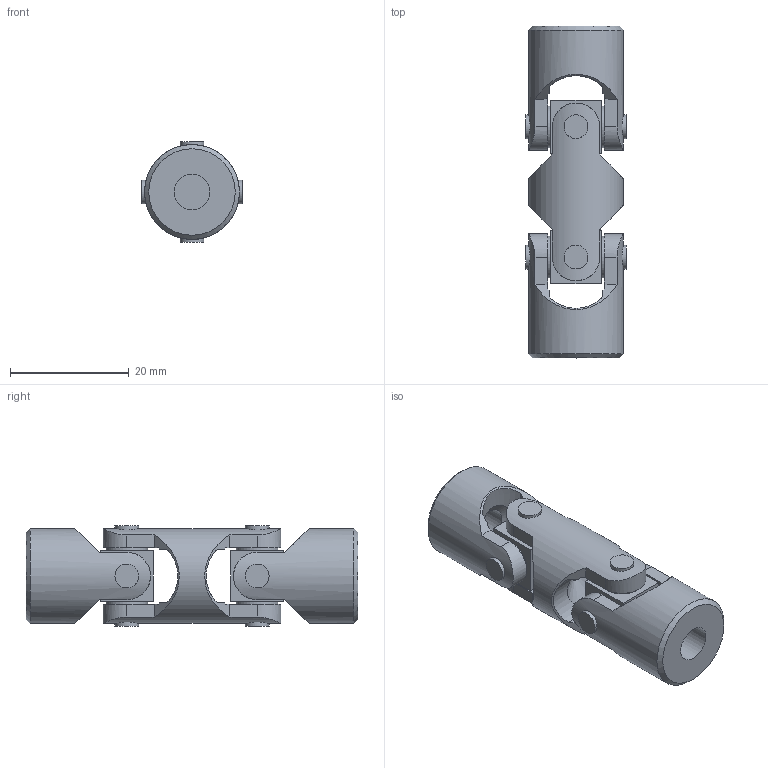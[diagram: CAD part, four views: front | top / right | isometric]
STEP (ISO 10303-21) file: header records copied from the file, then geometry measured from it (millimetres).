
FILE_DESCRIPTION(/* description */ (''),/* implementation_level */ '2;1');
FILE_NAME(/* name */ '\\SRV2016\Societa\Stefano\Disegni 3D\0Catalogo 3D\14Doppi XD\Ø16_01XD_SX0D0600.stp',/* time_stamp */ '2023-05-15T08:28:41+02:00',/* author */ ('acquisti'),/* organization */ (''),/* preprocessor_version */ 'ST-DEVELOPER v15.6',/* originating_system */ 'Autodesk Inventor 2015',/* authorisation */ '');
FILE_SCHEMA (('AUTOMOTIVE_DESIGN { 1 0 10303 214 3 1 1 }'));
Length unit declared in the file: millimetre
Products named in the file (4): 01X MOD; 01-02X SFE; 01X MOS; Ø16_01XD_SX0D0600
Assembly tree (5 placements, depth 2):
  Ø16_01XD_SX0D0600
    01X MOD
    01-02X SFE  x2
    01X MOS  x2
Bounding box: 16.9 x 56 x 16.9 mm (x, y, z)
Volume: 7748.7 mm3; surface area: 5522.7 mm2
Topology: 5 solids, 5 shells, 121 faces, 307 edges, 208 vertices
Faces by surface type: plane 62, cylinder 33, cone 22, torus 4
Full cylindrical faces by diameter (mm): 4 x8, 6 x2, 7 x8, 8.5 x4, 16 x3
Entity records: 2956 total; most frequent: CARTESIAN_POINT 1100, ORIENTED_EDGE 362, DIRECTION 346, EDGE_CURVE 181, AXIS2_PLACEMENT_3D 149, VERTEX_POINT 135, EDGE_LOOP 116, FACE_OUTER_BOUND 82
